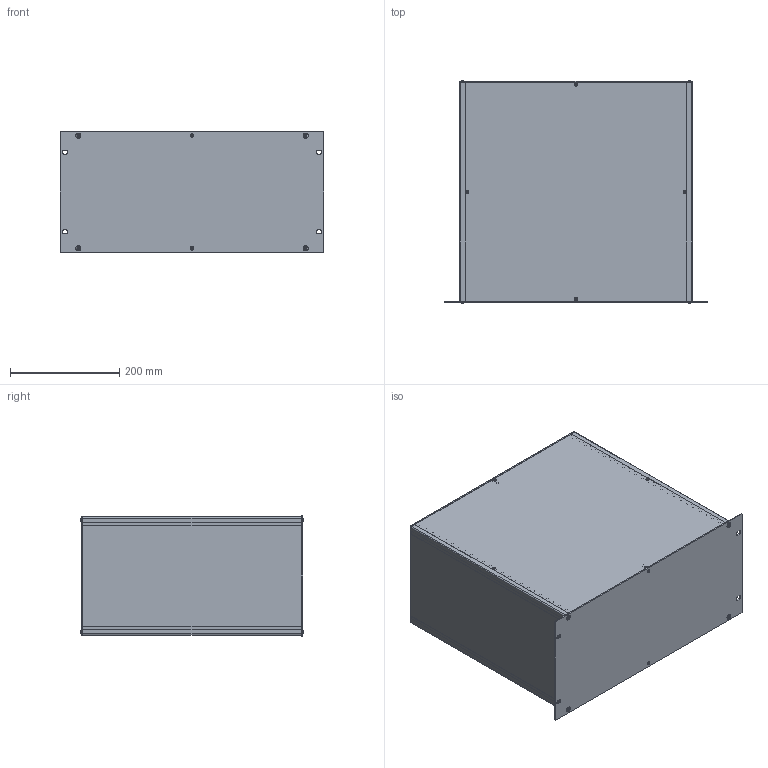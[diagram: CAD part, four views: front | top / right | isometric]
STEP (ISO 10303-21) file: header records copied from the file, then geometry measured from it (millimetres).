
FILE_DESCRIPTION(/* description */ (''),/* implementation_level */ '2;1');
FILE_NAME(/* name */ '//diskstation/Kunden/Gehäuse/Gehäuse/5HE/step/19 Zoll 5HE Rack Gehäuse Tiefe-400.step',/* time_stamp */ '2022-02-17T16:43:33+01:00',/* author */ (''),/* organization */ (''),/* preprocessor_version */ 'ST-DEVELOPER v18.1',/* originating_system */ 'Autodesk Translation Framework v10.10.0.1391',/* authorisation */ '');
FILE_SCHEMA (('AUTOMOTIVE_DESIGN { 1 0 10303 214 3 1 1 }'));
Length unit declared in the file: millimetre
Products named in the file (28): 5HE Gehäuse mit parametern; Gehäuse; Gehäuseprofil 1 unten links; Gehäuseprofil 2 oben rechts; Gehäuseprofil 1 unten rechts; Gehäuseprofil 2 oben links; Rückplatte; Deckel; Seitenteil links; Seitenteil rechts; Bodenplatte; Montageklotz Front/Deckel; Montageklotz Front/Boden; Montageklotz Rück/Deckel; Montageklotz Rück/Boden; Gewindestreifen; Frontplatte; Schrauben M5; Schraube Front; Schraube Front (1); Schraube Front (2); Schraube Front (3); Schraube Rück (1); Schraube Rück; Schraube Rück (2); Schraube Rück (3); Schrauben M3; HI_Senkschraube DIN 965 A v2 M3x5 24677.030.005(High)
Assembly tree (37 placements, depth 3):
  5HE Gehäuse mit parametern
    Gehäuse
      Gehäuseprofil 1 unten links
      Gehäuseprofil 2 oben rechts
      Gehäuseprofil 1 unten rechts
      Gehäuseprofil 2 oben links
      Rückplatte
      Deckel
      Seitenteil links
      Seitenteil rechts
      Bodenplatte
      Montageklotz Front/Deckel
      Montageklotz Front/Boden
      Montageklotz Rück/Deckel
      Montageklotz Rück/Boden
      Gewindestreifen  x2
    Frontplatte
    Schrauben M5
      Schraube Front
      Schraube Front (1)
      Schraube Front (2)
      Schraube Front (3)
      Schraube Rück (1)
      Schraube Rück
      Schraube Rück (2)
      Schraube Rück (3)
    Schrauben M3
      HI_Senkschraube DIN 965 A v2 M3x5 24677.030.005(High)  x10
Bounding box: 483 x 408.2 x 221.4 mm (x, y, z)
Volume: 1783065.1 mm3; surface area: 1546975.7 mm2
Topology: 34 solids, 34 shells, 914 faces, 2256 edges, 1410 vertices
Faces by surface type: cylinder 392, plane 342, cone 164, torus 8, bspline 8
Full cylindrical faces by diameter (mm): 2.529 x150, 3 x10, 3.2 x10, 4.234 x40, 5 x8, 5.2 x4, 5.3 x8, 5.6 x10, 9.5 x8
Entity records: 18015 total; most frequent: CARTESIAN_POINT 3258, DIRECTION 3030, ORIENTED_EDGE 2670, EDGE_CURVE 1335, AXIS2_PLACEMENT_3D 1150, VERTEX_POINT 838, EDGE_LOOP 821, LINE 730
